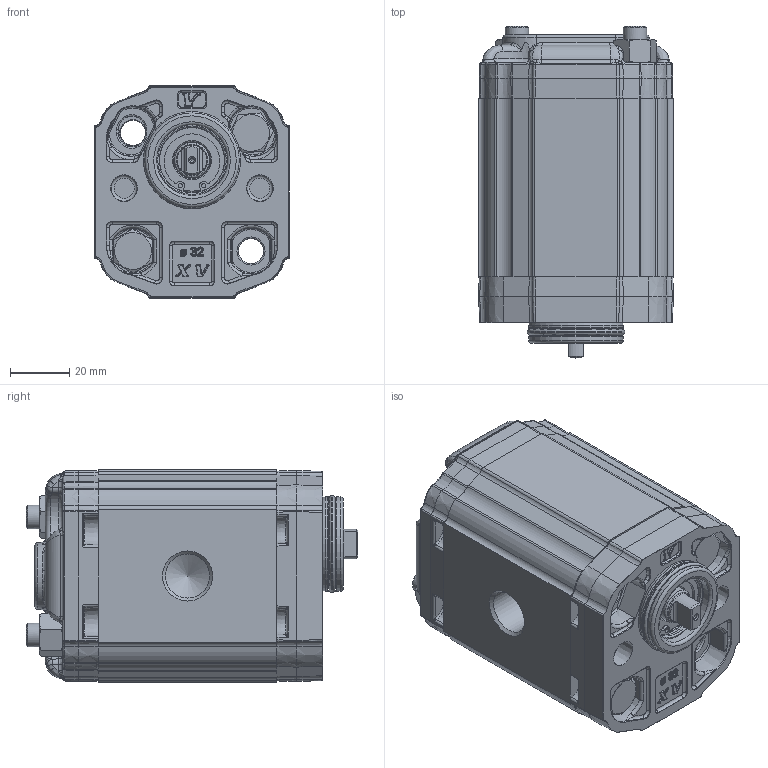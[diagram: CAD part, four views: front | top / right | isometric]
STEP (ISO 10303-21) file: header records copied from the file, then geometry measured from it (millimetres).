
FILE_DESCRIPTION(/* description */ ('Unknown'),/* implementation_level */ '2;1');
FILE_NAME(/* name */ 'X1U3152DBBA',/* time_stamp */ '2026-05-26T18:47:08+02:00',/* author */ ('Unknown'),/* organization */ ('Unknown'),/* preprocessor_version */ 'ST-DEVELOPER v16.7',/* originating_system */ 'Solid Edge',/* authorisation */ 'Unknown');
FILE_SCHEMA (('AUTOMOTIVE_DESIGN {1 0 10303 214 3 1 1}'));
Products named in the file (5): X1U3152DBBA; X1U52; 1D; X1BBH60,5; XU140-A
Assembly tree (4 placements, depth 2):
  X1U3152DBBA
    X1U52
    1D
    X1BBH60,5
    XU140-A
Bounding box: 66 x 112.49 x 72 mm (x, y, z)
Volume: 365769 mm3; surface area: 69203.3 mm2
Topology: 4 solids, 5 shells, 2562 faces, 6072 edges, 3565 vertices
Faces by surface type: cylinder 761, bspline 645, plane 555, torus 277, cone 239, sphere 85
Full cylindrical faces by diameter (mm): 1.447 x2, 1.5 x1, 8 x6, 8.5 x3, 9 x2, 10 x1, 10.5 x2, 11.965 x1, 12 x1, 12.4 x1, 14.95 x2, 15.115 x1, 17.147 x1, 19 x1, 20 x1, 21.8 x1, 22 x2, 22.2 x1, 23 x1, 24 x1, 29.4 x2, 32 x1, 32.96 x1
Entity records: 138451 total; most frequent: CARTESIAN_POINT 65528, ORIENTED_EDGE 11700, DIRECTION 10990, EDGE_CURVE 5850, AXIS2_PLACEMENT_3D 4545, VERTEX_POINT 3512, FACE_BOUND 2796, EDGE_LOOP 2792
